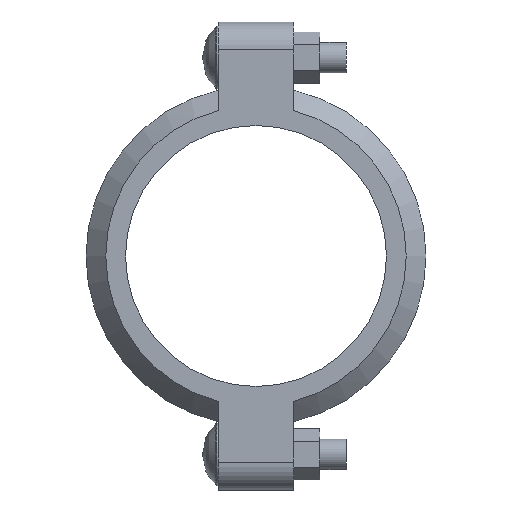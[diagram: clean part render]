
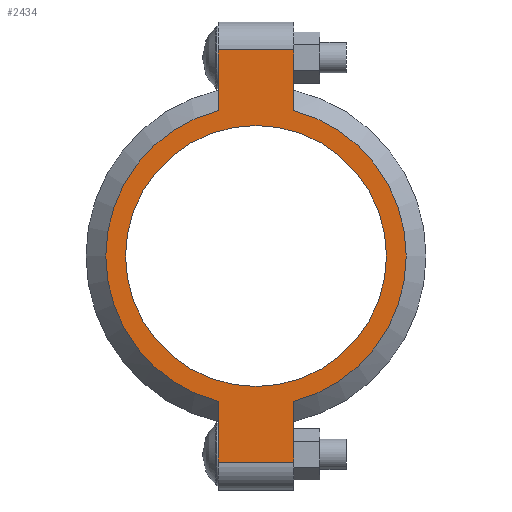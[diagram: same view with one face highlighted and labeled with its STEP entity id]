
A CAD part, front view. The second image highlights one B-rep face of the part: STEP entity #2434.
In plain terms, the highlighted planar face has unit normal (0, -1, 0).
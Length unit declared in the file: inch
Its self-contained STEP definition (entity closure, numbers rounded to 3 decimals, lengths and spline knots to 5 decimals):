
#8 = VECTOR ( 'NONE', #1460, 39.37008 ) ;
#10 = LINE ( 'NONE', #1562, #8 ) ;
#31 = CIRCLE ( 'NONE', #2242, 3.3125 ) ;
#43 = VECTOR ( 'NONE', #598, 39.37008 ) ;
#46 = LINE ( 'NONE', #597, #43 ) ;
#48 = CIRCLE ( 'NONE', #2264, 3.3125 ) ;
#597 = CARTESIAN_POINT ( 'NONE',  ( -0.955, -1.0025, 5.23 ) ) ;
#598 = DIRECTION ( 'NONE',  ( -1., 0., 0. ) ) ;
#619 = CARTESIAN_POINT ( 'NONE',  ( 0.955, -1.0025, -5.23 ) ) ;
#620 = CARTESIAN_POINT ( 'NONE',  ( 0., -1.0025, 0. ) ) ;
#621 = DIRECTION ( 'NONE',  ( 0., -1., 0. ) ) ;
#622 = DIRECTION ( 'NONE',  ( 0., 0., -1. ) ) ;
#624 = DIRECTION ( 'NONE',  ( 1., 0., 0. ) ) ;
#627 = CARTESIAN_POINT ( 'NONE',  ( 0., -1.0025, 0. ) ) ;
#628 = DIRECTION ( 'NONE',  ( 0., -1., 0. ) ) ;
#629 = DIRECTION ( 'NONE',  ( 0., 0., 1. ) ) ;
#633 = CARTESIAN_POINT ( 'NONE',  ( 0., -1.0025, 0. ) ) ;
#634 = DIRECTION ( 'NONE',  ( 0., -1., 0. ) ) ;
#635 = DIRECTION ( 'NONE',  ( 0., 0., 1. ) ) ;
#653 = CARTESIAN_POINT ( 'NONE',  ( -0.955, -1.0025, -5.94 ) ) ;
#654 = DIRECTION ( 'NONE',  ( 0., 0., 1. ) ) ;
#669 = CARTESIAN_POINT ( 'NONE',  ( -0.955, -1.0025, 4.20799 ) ) ;
#670 = DIRECTION ( 'NONE',  ( 0., 0., 1. ) ) ;
#734 = EDGE_LOOP ( 'NONE', ( #941, #882 ) ) ;
#738 = EDGE_LOOP ( 'NONE', ( #946, #943, #881, #930, #929, #921, #931, #920 ) ) ;
#820 = DIRECTION ( 'NONE',  ( 0., 0., -1. ) ) ;
#825 = CARTESIAN_POINT ( 'NONE',  ( 0.955, -1.0025, -4.20799 ) ) ;
#864 = VERTEX_POINT ( 'NONE', #2520 ) ;
#872 = VERTEX_POINT ( 'NONE', #2566 ) ;
#875 = VERTEX_POINT ( 'NONE', #2563 ) ;
#881 = ORIENTED_EDGE ( 'NONE', *, *, #2144, .F. ) ;
#882 = ORIENTED_EDGE ( 'NONE', *, *, #2113, .F. ) ;
#920 = ORIENTED_EDGE ( 'NONE', *, *, #2209, .T. ) ;
#921 = ORIENTED_EDGE ( 'NONE', *, *, #2204, .T. ) ;
#929 = ORIENTED_EDGE ( 'NONE', *, *, #2133, .F. ) ;
#930 = ORIENTED_EDGE ( 'NONE', *, *, #2206, .T. ) ;
#931 = ORIENTED_EDGE ( 'NONE', *, *, #2222, .F. ) ;
#941 = ORIENTED_EDGE ( 'NONE', *, *, #2203, .F. ) ;
#943 = ORIENTED_EDGE ( 'NONE', *, *, #2205, .T. ) ;
#946 = ORIENTED_EDGE ( 'NONE', *, *, #2216, .F. ) ;
#1245 = CARTESIAN_POINT ( 'NONE',  ( 0., -1.0025, 0. ) ) ;
#1272 = DIRECTION ( 'NONE',  ( 0., -1., 0. ) ) ;
#1274 = DIRECTION ( 'NONE',  ( 0., 0., -1. ) ) ;
#1460 = DIRECTION ( 'NONE',  ( 0., 0., -1. ) ) ;
#1562 = CARTESIAN_POINT ( 'NONE',  ( 0.955, -1.0025, 5.94 ) ) ;
#1784 = FACE_BOUND ( 'NONE', #734, .T. ) ;
#1791 = FACE_OUTER_BOUND ( 'NONE', #738, .T. ) ;
#1963 = VERTEX_POINT ( 'NONE', #2491 ) ;
#1983 = VERTEX_POINT ( 'NONE', #2488 ) ;
#1986 = VERTEX_POINT ( 'NONE', #2478 ) ;
#1988 = VERTEX_POINT ( 'NONE', #2492 ) ;
#1999 = VERTEX_POINT ( 'NONE', #2560 ) ;
#2002 = VERTEX_POINT ( 'NONE', #2557 ) ;
#2010 = VERTEX_POINT ( 'NONE', #2521 ) ;
#2047 = VECTOR ( 'NONE', #654, 39.37008 ) ;
#2049 = LINE ( 'NONE', #653, #2047 ) ;
#2059 = LINE ( 'NONE', #825, #2068 ) ;
#2068 = VECTOR ( 'NONE', #820, 39.37008 ) ;
#2088 = VECTOR ( 'NONE', #670, 39.37008 ) ;
#2089 = LINE ( 'NONE', #669, #2088 ) ;
#2113 = EDGE_CURVE ( 'NONE', #1988, #1999, #31, .T. ) ;
#2133 = EDGE_CURVE ( 'NONE', #1963, #872, #10, .T. ) ;
#2144 = EDGE_CURVE ( 'NONE', #864, #875, #2059, .T. ) ;
#2203 = EDGE_CURVE ( 'NONE', #1999, #1988, #48, .T. ) ;
#2204 = EDGE_CURVE ( 'NONE', #1963, #2002, #46, .T. ) ;
#2205 = EDGE_CURVE ( 'NONE', #1983, #875, #2324, .T. ) ;
#2206 = EDGE_CURVE ( 'NONE', #864, #872, #2325, .T. ) ;
#2209 = EDGE_CURVE ( 'NONE', #1986, #2010, #2319, .T. ) ;
#2216 = EDGE_CURVE ( 'NONE', #1983, #2010, #2049, .T. ) ;
#2222 = EDGE_CURVE ( 'NONE', #1986, #2002, #2089, .T. ) ;
#2242 = AXIS2_PLACEMENT_3D ( 'NONE', #1245, #1272, #1274 ) ;
#2264 = AXIS2_PLACEMENT_3D ( 'NONE', #620, #621, #622 ) ;
#2265 = AXIS2_PLACEMENT_3D ( 'NONE', #627, #628, #629 ) ;
#2266 = AXIS2_PLACEMENT_3D ( 'NONE', #633, #634, #635 ) ;
#2287 = AXIS2_PLACEMENT_3D ( 'NONE', #3235, #3244, #3245 ) ;
#2319 = CIRCLE ( 'NONE', #2266, 3.81375 ) ;
#2323 = VECTOR ( 'NONE', #624, 39.37008 ) ;
#2324 = LINE ( 'NONE', #619, #2323 ) ;
#2325 = CIRCLE ( 'NONE', #2265, 3.81375 ) ;
#2434 = ADVANCED_FACE ( 'NONE', ( #1784, #1791 ), #3239, .F. ) ;
#2478 = CARTESIAN_POINT ( 'NONE',  ( -0.955, -1.0025, 3.69224 ) ) ;
#2488 = CARTESIAN_POINT ( 'NONE',  ( -0.955, -1.0025, -5.23 ) ) ;
#2491 = CARTESIAN_POINT ( 'NONE',  ( 0.955, -1.0025, 5.23 ) ) ;
#2492 = CARTESIAN_POINT ( 'NONE',  ( 0., -1.0025, 3.3125 ) ) ;
#2520 = CARTESIAN_POINT ( 'NONE',  ( 0.955, -1.0025, -3.69224 ) ) ;
#2521 = CARTESIAN_POINT ( 'NONE',  ( -0.955, -1.0025, -3.69224 ) ) ;
#2557 = CARTESIAN_POINT ( 'NONE',  ( -0.955, -1.0025, 5.23 ) ) ;
#2560 = CARTESIAN_POINT ( 'NONE',  ( 0., -1.0025, -3.3125 ) ) ;
#2563 = CARTESIAN_POINT ( 'NONE',  ( 0.955, -1.0025, -5.23 ) ) ;
#2566 = CARTESIAN_POINT ( 'NONE',  ( 0.955, -1.0025, 3.69224 ) ) ;
#3235 = CARTESIAN_POINT ( 'NONE',  ( 0., -1.0025, 0. ) ) ;
#3239 = PLANE ( 'NONE',  #2287 ) ;
#3244 = DIRECTION ( 'NONE',  ( 0., 1., 0. ) ) ;
#3245 = DIRECTION ( 'NONE',  ( 0., 0., 1. ) ) ;
